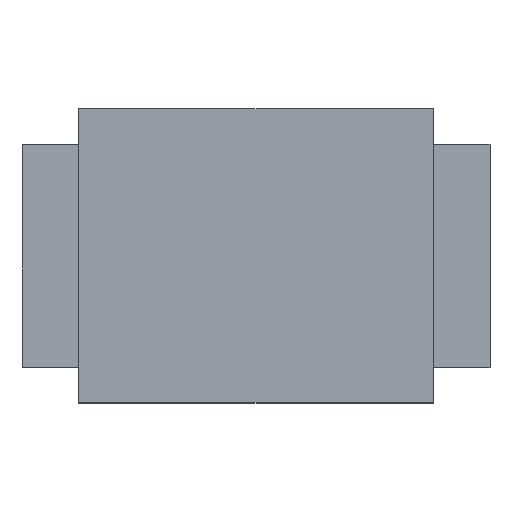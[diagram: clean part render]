
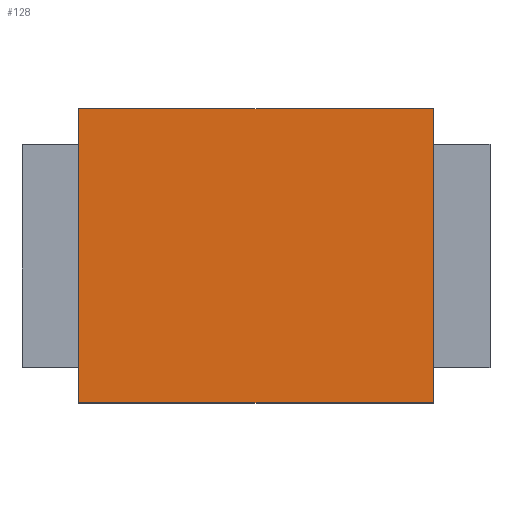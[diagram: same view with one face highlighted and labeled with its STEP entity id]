
A CAD part, top view. The second image highlights one B-rep face of the part: STEP entity #128.
In plain terms, the highlighted planar face has unit normal (0, 0, 1).
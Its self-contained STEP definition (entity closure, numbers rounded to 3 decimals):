
#128=ADVANCED_FACE('',(#440),#442,.T.);
#440=FACE_BOUND('',#441,.T.);
#441=EDGE_LOOP('',(#860,#861,#862,#863));
#442=PLANE('',#443);
#443=AXIS2_PLACEMENT_3D('',#444,#445,#446);
#444=CARTESIAN_POINT('',(0.,0.,0.61));
#445=DIRECTION('',(0.,0.,1.));
#446=DIRECTION('',(-1.,0.,0.));
#860=ORIENTED_EDGE('',*,*,#1175,.T.);
#861=ORIENTED_EDGE('',*,*,#1181,.T.);
#862=ORIENTED_EDGE('',*,*,#1167,.T.);
#863=ORIENTED_EDGE('',*,*,#1182,.T.);
#1167=EDGE_CURVE('',#1364,#1362,#1365,.F.);
#1175=EDGE_CURVE('',#1380,#1378,#1381,.F.);
#1181=EDGE_CURVE('',#1378,#1364,#1391,.T.);
#1182=EDGE_CURVE('',#1362,#1380,#1392,.T.);
#1362=VERTEX_POINT('',#1567);
#1364=VERTEX_POINT('',#1571);
#1365=LINE('',#1572,#1573);
#1378=VERTEX_POINT('',#1599);
#1380=VERTEX_POINT('',#1603);
#1381=LINE('',#1604,#1605);
#1391=LINE('',#1626,#1627);
#1392=LINE('',#1629,#1630);
#1567=CARTESIAN_POINT('',(-0.694,-0.575,0.61));
#1571=CARTESIAN_POINT('',(-0.694,0.575,0.61));
#1572=CARTESIAN_POINT('',(-0.694,-0.575,0.61));
#1573=VECTOR('',#1574,1.);
#1574=DIRECTION('',(0.,1.,0.));
#1599=CARTESIAN_POINT('',(0.694,0.575,0.61));
#1603=CARTESIAN_POINT('',(0.694,-0.575,0.61));
#1604=CARTESIAN_POINT('',(0.694,0.575,0.61));
#1605=VECTOR('',#1606,1.);
#1606=DIRECTION('',(0.,-1.,0.));
#1626=CARTESIAN_POINT('',(0.694,0.575,0.61));
#1627=VECTOR('',#1628,1.);
#1628=DIRECTION('',(-1.,0.,0.));
#1629=CARTESIAN_POINT('',(-0.694,-0.575,0.61));
#1630=VECTOR('',#1631,1.);
#1631=DIRECTION('',(1.,0.,0.));
